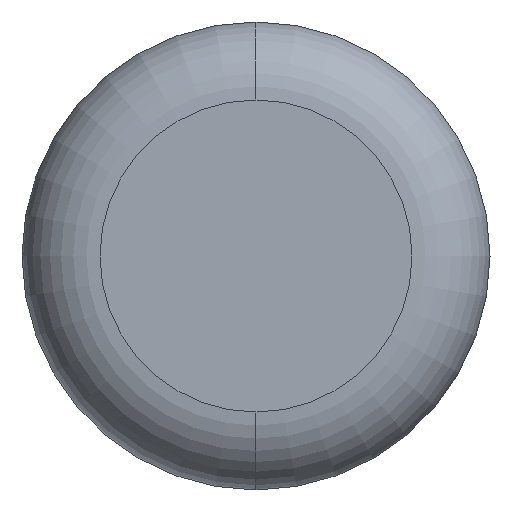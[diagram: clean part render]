
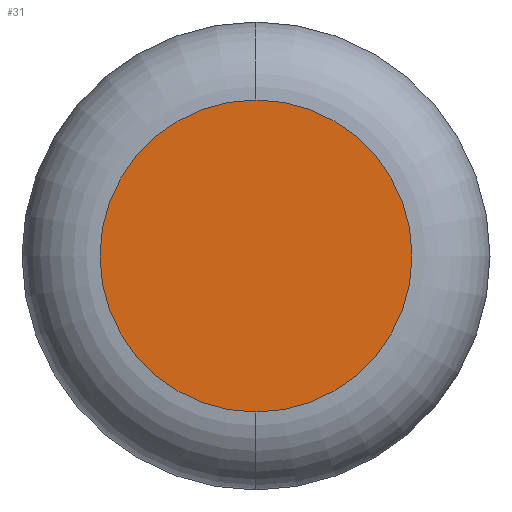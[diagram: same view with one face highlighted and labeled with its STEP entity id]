
A CAD part, left-side view. The second image highlights one B-rep face of the part: STEP entity #31.
In plain terms, the highlighted planar face has unit normal (-1, 0, 0).
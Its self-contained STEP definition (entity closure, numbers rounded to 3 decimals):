
#13 = VERTEX_POINT ( 'NONE', #180 ) ;
#17 = VERTEX_POINT ( 'NONE', #120 ) ;
#25 = DIRECTION ( 'NONE',  ( 0., 0., -1. ) ) ;
#31 = ADVANCED_FACE ( 'NONE', ( #215 ), #154, .F. ) ;
#34 = CIRCLE ( 'NONE', #148, 2. ) ;
#55 = EDGE_CURVE ( 'NONE', #13, #17, #125, .T. ) ;
#64 = CARTESIAN_POINT ( 'NONE',  ( 0., 0., 0. ) ) ;
#75 = ORIENTED_EDGE ( 'NONE', *, *, #178, .T. ) ;
#109 = DIRECTION ( 'NONE',  ( -1., 0., 0. ) ) ;
#113 = AXIS2_PLACEMENT_3D ( 'NONE', #239, #157, #181 ) ;
#120 = CARTESIAN_POINT ( 'NONE',  ( 0., 0., 2. ) ) ;
#122 = DIRECTION ( 'NONE',  ( 0., 0., -1. ) ) ;
#125 = CIRCLE ( 'NONE', #135, 2. ) ;
#134 = ORIENTED_EDGE ( 'NONE', *, *, #55, .T. ) ;
#135 = AXIS2_PLACEMENT_3D ( 'NONE', #142, #179, #122 ) ;
#142 = CARTESIAN_POINT ( 'NONE',  ( 0., 0., 0. ) ) ;
#148 = AXIS2_PLACEMENT_3D ( 'NONE', #64, #109, #25 ) ;
#154 = PLANE ( 'NONE',  #113 ) ;
#157 = DIRECTION ( 'NONE',  ( 1., 0., 0. ) ) ;
#166 = EDGE_LOOP ( 'NONE', ( #134, #75 ) ) ;
#178 = EDGE_CURVE ( 'NONE', #17, #13, #34, .T. ) ;
#179 = DIRECTION ( 'NONE',  ( -1., 0., 0. ) ) ;
#180 = CARTESIAN_POINT ( 'NONE',  ( 0., 0., -2. ) ) ;
#181 = DIRECTION ( 'NONE',  ( 0., 0., -1. ) ) ;
#215 = FACE_OUTER_BOUND ( 'NONE', #166, .T. ) ;
#239 = CARTESIAN_POINT ( 'NONE',  ( 0., 0., 0. ) ) ;
